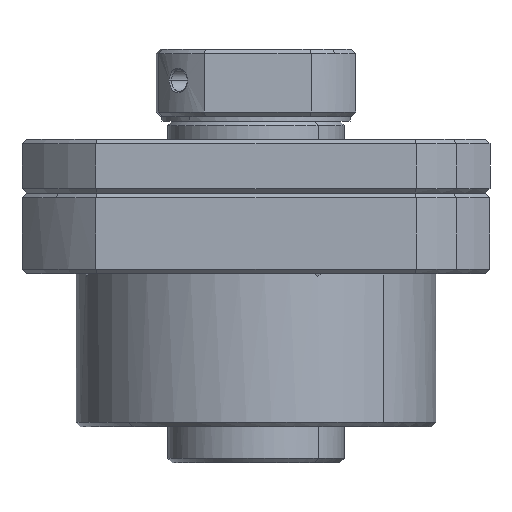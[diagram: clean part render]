
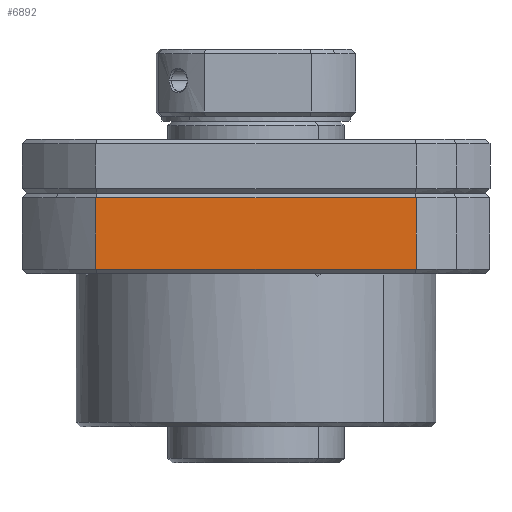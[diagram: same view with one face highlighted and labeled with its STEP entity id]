
A CAD part, left-side view. The second image highlights one B-rep face of the part: STEP entity #6892.
In plain terms, the highlighted planar face has unit normal (-1, 0, 0).
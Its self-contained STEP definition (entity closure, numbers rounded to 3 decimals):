
#306 = CARTESIAN_POINT ( 'NONE',  ( -31.608, 1.123, 4.5 ) ) ;
#469 = EDGE_CURVE ( 'NONE', #4644, #4854, #8098, .T. ) ;
#685 = CARTESIAN_POINT ( 'NONE',  ( -31.608, -10.733, 9.833 ) ) ;
#1028 = VERTEX_POINT ( 'NONE', #5065 ) ;
#1316 = CARTESIAN_POINT ( 'NONE',  ( -31.608, 24.834, 4.5 ) ) ;
#1391 = EDGE_LOOP ( 'NONE', ( #14013, #10696, #3936, #5360 ) ) ;
#1746 = DIRECTION ( 'NONE',  ( 1., 0., 0. ) ) ;
#2666 = EDGE_CURVE ( 'NONE', #4854, #1028, #3044, .T. ) ;
#2824 = CARTESIAN_POINT ( 'NONE',  ( -31.608, -10.733, 4.5 ) ) ;
#3029 = CARTESIAN_POINT ( 'NONE',  ( -31.608, -10.733, 4.5 ) ) ;
#3044 = B_SPLINE_CURVE_WITH_KNOTS ( 'NONE', 3,
 ( #13121, #306, #9836, #1316 ),
 .UNSPECIFIED., .F., .F.,
 ( 4, 4 ),
 ( 0., 1. ),
 .UNSPECIFIED. ) ;
#3512 = CARTESIAN_POINT ( 'NONE',  ( -31.608, 24.834, 12.5 ) ) ;
#3561 = CARTESIAN_POINT ( 'NONE',  ( -31.608, -10.733, 12.5 ) ) ;
#3833 = CARTESIAN_POINT ( 'NONE',  ( -31.608, 1.123, 12.5 ) ) ;
#3936 = ORIENTED_EDGE ( 'NONE', *, *, #2666, .F. ) ;
#4644 = VERTEX_POINT ( 'NONE', #3561 ) ;
#4854 = VERTEX_POINT ( 'NONE', #3029 ) ;
#4973 = CARTESIAN_POINT ( 'NONE',  ( -31.608, -10.733, 12.5 ) ) ;
#5039 = CARTESIAN_POINT ( 'NONE',  ( -31.608, 12.979, 12.5 ) ) ;
#5065 = CARTESIAN_POINT ( 'NONE',  ( -31.608, 24.834, 4.5 ) ) ;
#5360 = ORIENTED_EDGE ( 'NONE', *, *, #469, .F. ) ;
#5969 = CARTESIAN_POINT ( 'NONE',  ( -31.608, 24.834, 7.167 ) ) ;
#6314 = AXIS2_PLACEMENT_3D ( 'NONE', #9282, #1746, #12707 ) ;
#6892 = ADVANCED_FACE ( 'NONE', ( #8350 ), #8154, .F. ) ;
#6967 = CARTESIAN_POINT ( 'NONE',  ( -31.608, 24.834, 4.5 ) ) ;
#7238 = B_SPLINE_CURVE_WITH_KNOTS ( 'NONE', 3,
 ( #3512, #5039, #3833, #4973 ),
 .UNSPECIFIED., .F., .F.,
 ( 4, 4 ),
 ( 0., 1. ),
 .UNSPECIFIED. ) ;
#7962 = CARTESIAN_POINT ( 'NONE',  ( -31.608, 24.834, 9.833 ) ) ;
#8098 = B_SPLINE_CURVE_WITH_KNOTS ( 'NONE', 3,
 ( #13692, #685, #8346, #2824 ),
 .UNSPECIFIED., .F., .F.,
 ( 4, 4 ),
 ( 0., 1. ),
 .UNSPECIFIED. ) ;
#8154 = PLANE ( 'NONE',  #6314 ) ;
#8346 = CARTESIAN_POINT ( 'NONE',  ( -31.608, -10.733, 7.167 ) ) ;
#8350 = FACE_OUTER_BOUND ( 'NONE', #1391, .T. ) ;
#8514 = B_SPLINE_CURVE_WITH_KNOTS ( 'NONE', 3,
 ( #6967, #5969, #7962, #10311 ),
 .UNSPECIFIED., .F., .F.,
 ( 4, 4 ),
 ( 0., 1. ),
 .UNSPECIFIED. ) ;
#9175 = VERTEX_POINT ( 'NONE', #11907 ) ;
#9282 = CARTESIAN_POINT ( 'NONE',  ( -31.608, 24.834, 13. ) ) ;
#9836 = CARTESIAN_POINT ( 'NONE',  ( -31.608, 12.979, 4.5 ) ) ;
#10243 = EDGE_CURVE ( 'NONE', #1028, #9175, #8514, .T. ) ;
#10311 = CARTESIAN_POINT ( 'NONE',  ( -31.608, 24.834, 12.5 ) ) ;
#10696 = ORIENTED_EDGE ( 'NONE', *, *, #10243, .F. ) ;
#11907 = CARTESIAN_POINT ( 'NONE',  ( -31.608, 24.834, 12.5 ) ) ;
#12707 = DIRECTION ( 'NONE',  ( 0., 1., 0. ) ) ;
#13106 = EDGE_CURVE ( 'NONE', #9175, #4644, #7238, .T. ) ;
#13121 = CARTESIAN_POINT ( 'NONE',  ( -31.608, -10.733, 4.5 ) ) ;
#13692 = CARTESIAN_POINT ( 'NONE',  ( -31.608, -10.733, 12.5 ) ) ;
#14013 = ORIENTED_EDGE ( 'NONE', *, *, #13106, .F. ) ;
